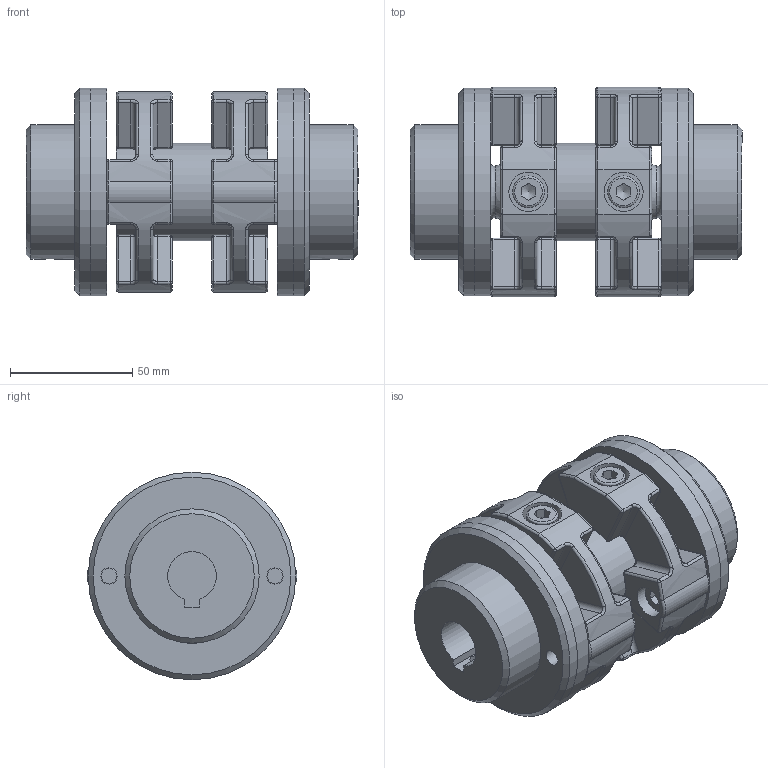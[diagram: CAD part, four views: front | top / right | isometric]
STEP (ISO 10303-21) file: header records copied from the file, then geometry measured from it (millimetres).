
FILE_DESCRIPTION(/* description */ (''),/* implementation_level */ '2;1');
FILE_NAME(/* name */ 'GXZ02-L80-20-PF-20-PF',/* time_stamp */ '2024-01-05T15:37:15+01:00',/* author */ ('M. Horlacher'),/* organization */ (''),/* preprocessor_version */ 'ST-DEVELOPER v20',/* originating_system */ 'Autodesk Inventor 2024',/* authorisation */ '');
FILE_SCHEMA (('AUTOMOTIVE_DESIGN { 1 0 10303 214 3 1 1 }'));
Length unit declared in the file: millimetre
Products named in the file (9): RP STEP; VE Rohr Dummy; GX02-Nabe; GX02 Befestigungssatz ST; 080305-1406s; 110305-0741s; ISO 4762 - M8 x 20 - 8.8 - VZ A1A; GX02-Nabe_1; 201017-0836b
Assembly tree (13 placements, depth 3):
  RP STEP
    VE Rohr Dummy
    GX02 Befestigungssatz ST  x2
      080305-1406s
      110305-0741s
      ISO 4762 - M8 x 20 - 8.8 - VZ A1A
    GX02-Nabe
    GX02-Nabe_1
    201017-0836b  x2
Bounding box: 136 x 85.95 x 85 mm (x, y, z)
Volume: 402705 mm3; surface area: 140060.7 mm2
Topology: 17 solids, 17 shells, 650 faces, 1526 edges, 862 vertices
Faces by surface type: cylinder 214, plane 176, torus 106, sphere 66, bspline 64, cone 24
Full cylindrical faces by diameter (mm): 4.917 x2, 6.647 x8, 8 x16, 9 x4, 13 x12, 16 x4, 24 x2, 37 x3, 40 x3, 55 x2, 80 x4, 85 x4
Entity records: 9970 total; most frequent: CARTESIAN_POINT 2960, DIRECTION 1478, ORIENTED_EDGE 1322, EDGE_CURVE 661, AXIS2_PLACEMENT_3D 630, VERTEX_POINT 387, EDGE_LOOP 346, CIRCLE 336
